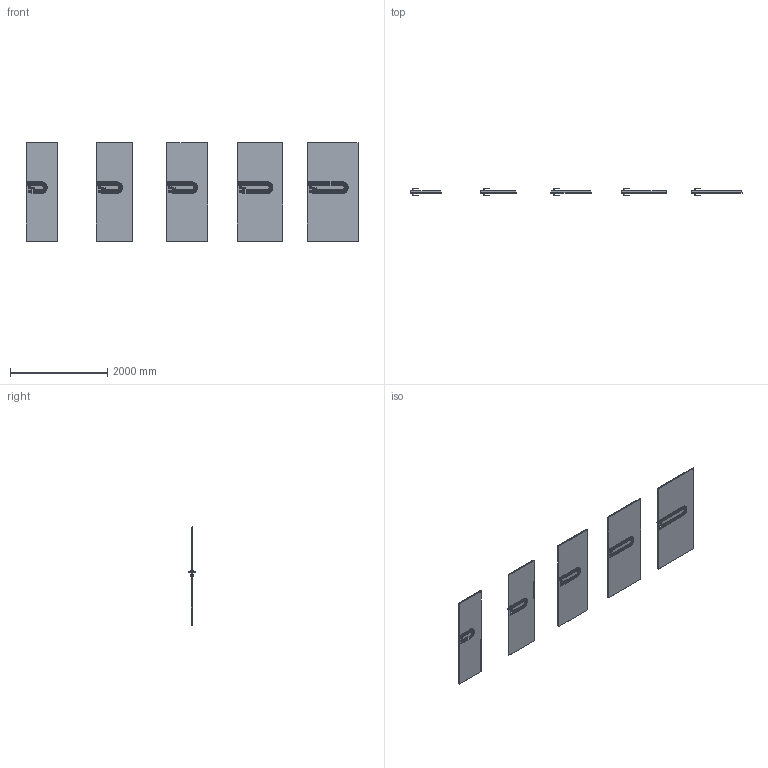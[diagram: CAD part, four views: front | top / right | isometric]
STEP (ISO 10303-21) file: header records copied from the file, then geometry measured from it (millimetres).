
FILE_DESCRIPTION(/* description */ (''),/* implementation_level */ '2;1');
FILE_NAME(/* name */ '049845_A_2-Skrzydło ART DECO model 4_ polska norma _PN__ przylgowe..stp',/* time_stamp */ '2024-09-02T12:09:43+02:00',/* author */ (''),/* organization */ (''),/* preprocessor_version */ 'ST-DEVELOPER v16',/* originating_system */ 'SIEMENS PLM Software NX 11.0',/* authorisation */ '');
FILE_SCHEMA (('AUTOMOTIVE_DESIGN { 1 0 10303 214 3 1 1 1 }'));
Length unit declared in the file: millimetre
Products named in the file (1): bkni1684CEC86ff2
Bounding box: 6844 x 153.13 x 2030 mm (x, y, z)
Volume: 328521858.1 mm3; surface area: 18538386.3 mm2
Topology: 25 solids, 25 shells, 1560 faces, 3730 edges, 2120 vertices
Faces by surface type: plane 530, cylinder 460, bspline 190, torus 150, sphere 140, cone 90
Entity records: 49799 total; most frequent: CARTESIAN_POINT 14741, DIRECTION 7472, ORIENTED_EDGE 7180, EDGE_CURVE 3590, AXIS2_PLACEMENT_3D 2811, VERTEX_POINT 2120, LINE 1850, VECTOR 1850
